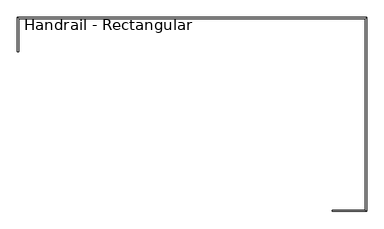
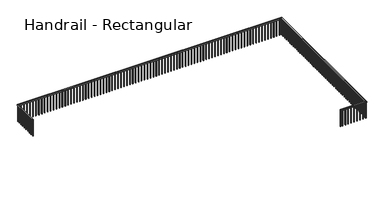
"""IFC4 building model written with IfcOpenShell, lengths in millimetres: railing geometry, Handrail - Rectangular."""

from ifc_helpers import new_model, si_unit, frame, origin, place, context, project, spatial, polyline, outline, extrude, faceted_brep, source, transform, mapped, element, save


def handrail_rectangular_d296d626(model_context):
    return source(origin(), model_context, "Body", "SolidModel", [
        faceted_brep([(-11342.6589563, 10624.0316867, 10058.4), (-11393.4589563, 10624.0316867, 10058.4), (-11393.4589563, 10624.0316867, 10007.6), (-11342.6589563, 10624.0316867, 10007.6), (-11342.6589563, 11919.4316867, 10058.4), (-11393.4589563, 11970.2316867, 10058.4), (-11393.4589563, 11970.2316867, 10007.6), (-11342.6589563, 11919.4316867, 10007.6), (2271.7410437, 11919.4316867, 10058.4), (2322.5410437, 11970.2316867, 10058.4), (2322.5410437, 11970.2316867, 10007.6), (2271.7410437, 11919.4316867, 10007.6), (2271.7410437, 4401.0316867, 10058.4), (2322.5410437, 4350.2316867, 10058.4), (2322.5410437, 4350.2316867, 10007.6), (2271.7410437, 4401.0316867, 10007.6), (976.3410437, 4401.0316867, 10058.4), (976.3410437, 4401.0316867, 10007.6), (976.3410437, 4350.2316867, 10007.6), (976.3410437, 4350.2316867, 10058.4)], [[[0, 1, 2, 3]], [[1, 0, 4, 5]], [[2, 1, 5, 6]], [[3, 2, 6, 7]], [[0, 3, 7, 4]], [[5, 4, 8, 9]], [[6, 5, 9, 10]], [[7, 6, 10, 11]], [[4, 7, 11, 8]], [[9, 8, 12, 13]], [[10, 9, 13, 14]], [[11, 10, 14, 15]], [[8, 11, 15, 12]], [[16, 17, 18, 19]], [[13, 12, 16, 19]], [[14, 13, 19, 18]], [[15, 14, 18, 17]], [[12, 15, 17, 16]]]),
        extrude(outline(polyline([(1087.4660437, 4385.1566867), (1087.4660437, 4366.1066867), (1068.4160437, 4366.1066867), (1068.4160437, 4385.1566867), (1087.4660437, 4385.1566867)])), frame((0.0, 0.0, 9144.0), z_axis=(0.0, 0.0, 1.0), x_axis=(1.0, 0.0, 0.0)), (0.0, 0.0, 1.0), 863.6),
        extrude(outline(polyline([(1239.8660437, 4385.1566867), (1239.8660437, 4366.1066867), (1220.8160437, 4366.1066867), (1220.8160437, 4385.1566867), (1239.8660437, 4385.1566867)])), frame((0.0, 0.0, 9144.0), z_axis=(0.0, 0.0, 1.0), x_axis=(1.0, 0.0, 0.0)), (0.0, 0.0, 1.0), 863.6),
        extrude(outline(polyline([(1392.2660437, 4385.1566867), (1392.2660437, 4366.1066867), (1373.2160437, 4366.1066867), (1373.2160437, 4385.1566867), (1392.2660437, 4385.1566867)])), frame((0.0, 0.0, 9144.0), z_axis=(0.0, 0.0, 1.0), x_axis=(1.0, 0.0, 0.0)), (0.0, 0.0, 1.0), 863.6),
        extrude(outline(polyline([(1544.6660437, 4385.1566867), (1544.6660437, 4366.1066867), (1525.6160437, 4366.1066867), (1525.6160437, 4385.1566867), (1544.6660437, 4385.1566867)])), frame((0.0, 0.0, 9144.0), z_axis=(0.0, 0.0, 1.0), x_axis=(1.0, 0.0, 0.0)), (0.0, 0.0, 1.0), 863.6),
        extrude(outline(polyline([(1697.0660437, 4385.1566867), (1697.0660437, 4366.1066867), (1678.0160437, 4366.1066867), (1678.0160437, 4385.1566867), (1697.0660437, 4385.1566867)])), frame((0.0, 0.0, 9144.0), z_axis=(0.0, 0.0, 1.0), x_axis=(1.0, 0.0, 0.0)), (0.0, 0.0, 1.0), 863.6),
        extrude(outline(polyline([(1849.4660437, 4385.1566867), (1849.4660437, 4366.1066867), (1830.4160437, 4366.1066867), (1830.4160437, 4385.1566867), (1849.4660437, 4385.1566867)])), frame((0.0, 0.0, 9144.0), z_axis=(0.0, 0.0, 1.0), x_axis=(1.0, 0.0, 0.0)), (0.0, 0.0, 1.0), 863.6),
        extrude(outline(polyline([(2001.8660437, 4385.1566867), (2001.8660437, 4366.1066867), (1982.8160437, 4366.1066867), (1982.8160437, 4385.1566867), (2001.8660437, 4385.1566867)])), frame((0.0, 0.0, 9144.0), z_axis=(0.0, 0.0, 1.0), x_axis=(1.0, 0.0, 0.0)), (0.0, 0.0, 1.0), 863.6),
        extrude(outline(polyline([(2154.2660437, 4385.1566867), (2154.2660437, 4366.1066867), (2135.2160437, 4366.1066867), (2135.2160437, 4385.1566867), (2154.2660437, 4385.1566867)])), frame((0.0, 0.0, 9144.0), z_axis=(0.0, 0.0, 1.0), x_axis=(1.0, 0.0, 0.0)), (0.0, 0.0, 1.0), 863.6),
        extrude(outline(polyline([(2287.6160437, 4486.7566867), (2306.6660437, 4486.7566867), (2306.6660437, 4467.7066867), (2287.6160437, 4467.7066867), (2287.6160437, 4486.7566867)])), frame((0.0, 0.0, 9144.0), z_axis=(0.0, 0.0, 1.0), x_axis=(1.0, 0.0, 0.0)), (0.0, 0.0, 1.0), 863.6),
        extrude(outline(polyline([(2287.6160437, 4639.1566867), (2306.6660437, 4639.1566867), (2306.6660437, 4620.1066867), (2287.6160437, 4620.1066867), (2287.6160437, 4639.1566867)])), frame((0.0, 0.0, 9144.0), z_axis=(0.0, 0.0, 1.0), x_axis=(1.0, 0.0, 0.0)), (0.0, 0.0, 1.0), 863.6),
        extrude(outline(polyline([(2287.6160437, 4791.5566867), (2306.6660437, 4791.5566867), (2306.6660437, 4772.5066867), (2287.6160437, 4772.5066867), (2287.6160437, 4791.5566867)])), frame((0.0, 0.0, 9144.0), z_axis=(0.0, 0.0, 1.0), x_axis=(1.0, 0.0, 0.0)), (0.0, 0.0, 1.0), 863.6),
        extrude(outline(polyline([(2287.6160437, 4943.9566867), (2306.6660437, 4943.9566867), (2306.6660437, 4924.9066867), (2287.6160437, 4924.9066867), (2287.6160437, 4943.9566867)])), frame((0.0, 0.0, 9144.0), z_axis=(0.0, 0.0, 1.0), x_axis=(1.0, 0.0, 0.0)), (0.0, 0.0, 1.0), 863.6),
        extrude(outline(polyline([(2287.6160437, 5096.3566867), (2306.6660437, 5096.3566867), (2306.6660437, 5077.3066867), (2287.6160437, 5077.3066867), (2287.6160437, 5096.3566867)])), frame((0.0, 0.0, 9144.0), z_axis=(0.0, 0.0, 1.0), x_axis=(1.0, 0.0, 0.0)), (0.0, 0.0, 1.0), 863.6),
        extrude(outline(polyline([(2287.6160437, 5248.7566867), (2306.6660437, 5248.7566867), (2306.6660437, 5229.7066867), (2287.6160437, 5229.7066867), (2287.6160437, 5248.7566867)])), frame((0.0, 0.0, 9144.0), z_axis=(0.0, 0.0, 1.0), x_axis=(1.0, 0.0, 0.0)), (0.0, 0.0, 1.0), 863.6),
        extrude(outline(polyline([(2287.6160437, 5401.1566867), (2306.6660437, 5401.1566867), (2306.6660437, 5382.1066867), (2287.6160437, 5382.1066867), (2287.6160437, 5401.1566867)])), frame((0.0, 0.0, 9144.0), z_axis=(0.0, 0.0, 1.0), x_axis=(1.0, 0.0, 0.0)), (0.0, 0.0, 1.0), 863.6),
        extrude(outline(polyline([(2287.6160437, 5553.5566867), (2306.6660437, 5553.5566867), (2306.6660437, 5534.5066867), (2287.6160437, 5534.5066867), (2287.6160437, 5553.5566867)])), frame((0.0, 0.0, 9144.0), z_axis=(0.0, 0.0, 1.0), x_axis=(1.0, 0.0, 0.0)), (0.0, 0.0, 1.0), 863.6),
        extrude(outline(polyline([(2287.6160437, 5705.9566867), (2306.6660437, 5705.9566867), (2306.6660437, 5686.9066867), (2287.6160437, 5686.9066867), (2287.6160437, 5705.9566867)])), frame((0.0, 0.0, 9144.0), z_axis=(0.0, 0.0, 1.0), x_axis=(1.0, 0.0, 0.0)), (0.0, 0.0, 1.0), 863.6),
        extrude(outline(polyline([(2287.6160437, 5858.3566867), (2306.6660437, 5858.3566867), (2306.6660437, 5839.3066867), (2287.6160437, 5839.3066867), (2287.6160437, 5858.3566867)])), frame((0.0, 0.0, 9144.0), z_axis=(0.0, 0.0, 1.0), x_axis=(1.0, 0.0, 0.0)), (0.0, 0.0, 1.0), 863.6),
        extrude(outline(polyline([(2287.6160437, 6010.7566867), (2306.6660437, 6010.7566867), (2306.6660437, 5991.7066867), (2287.6160437, 5991.7066867), (2287.6160437, 6010.7566867)])), frame((0.0, 0.0, 9144.0), z_axis=(0.0, 0.0, 1.0), x_axis=(1.0, 0.0, 0.0)), (0.0, 0.0, 1.0), 863.6),
        extrude(outline(polyline([(2287.6160437, 6163.1566867), (2306.6660437, 6163.1566867), (2306.6660437, 6144.1066867), (2287.6160437, 6144.1066867), (2287.6160437, 6163.1566867)])), frame((0.0, 0.0, 9144.0), z_axis=(0.0, 0.0, 1.0), x_axis=(1.0, 0.0, 0.0)), (0.0, 0.0, 1.0), 863.6),
        extrude(outline(polyline([(2287.6160437, 6315.5566867), (2306.6660437, 6315.5566867), (2306.6660437, 6296.5066867), (2287.6160437, 6296.5066867), (2287.6160437, 6315.5566867)])), frame((0.0, 0.0, 9144.0), z_axis=(0.0, 0.0, 1.0), x_axis=(1.0, 0.0, 0.0)), (0.0, 0.0, 1.0), 863.6),
        extrude(outline(polyline([(2287.6160437, 6467.9566867), (2306.6660437, 6467.9566867), (2306.6660437, 6448.9066867), (2287.6160437, 6448.9066867), (2287.6160437, 6467.9566867)])), frame((0.0, 0.0, 9144.0), z_axis=(0.0, 0.0, 1.0), x_axis=(1.0, 0.0, 0.0)), (0.0, 0.0, 1.0), 863.6),
        extrude(outline(polyline([(2287.6160437, 6620.3566867), (2306.6660437, 6620.3566867), (2306.6660437, 6601.3066867), (2287.6160437, 6601.3066867), (2287.6160437, 6620.3566867)])), frame((0.0, 0.0, 9144.0), z_axis=(0.0, 0.0, 1.0), x_axis=(1.0, 0.0, 0.0)), (0.0, 0.0, 1.0), 863.6),
        extrude(outline(polyline([(2287.6160437, 6772.7566867), (2306.6660437, 6772.7566867), (2306.6660437, 6753.7066867), (2287.6160437, 6753.7066867), (2287.6160437, 6772.7566867)])), frame((0.0, 0.0, 9144.0), z_axis=(0.0, 0.0, 1.0), x_axis=(1.0, 0.0, 0.0)), (0.0, 0.0, 1.0), 863.6),
        extrude(outline(polyline([(2287.6160437, 6925.1566867), (2306.6660437, 6925.1566867), (2306.6660437, 6906.1066867), (2287.6160437, 6906.1066867), (2287.6160437, 6925.1566867)])), frame((0.0, 0.0, 9144.0), z_axis=(0.0, 0.0, 1.0), x_axis=(1.0, 0.0, 0.0)), (0.0, 0.0, 1.0), 863.6),
        extrude(outline(polyline([(2287.6160437, 7077.5566867), (2306.6660437, 7077.5566867), (2306.6660437, 7058.5066867), (2287.6160437, 7058.5066867), (2287.6160437, 7077.5566867)])), frame((0.0, 0.0, 9144.0), z_axis=(0.0, 0.0, 1.0), x_axis=(1.0, 0.0, 0.0)), (0.0, 0.0, 1.0), 863.6),
        extrude(outline(polyline([(2287.6160437, 7229.9566867), (2306.6660437, 7229.9566867), (2306.6660437, 7210.9066867), (2287.6160437, 7210.9066867), (2287.6160437, 7229.9566867)])), frame((0.0, 0.0, 9144.0), z_axis=(0.0, 0.0, 1.0), x_axis=(1.0, 0.0, 0.0)), (0.0, 0.0, 1.0), 863.6),
        extrude(outline(polyline([(2287.6160437, 7382.3566867), (2306.6660437, 7382.3566867), (2306.6660437, 7363.3066867), (2287.6160437, 7363.3066867), (2287.6160437, 7382.3566867)])), frame((0.0, 0.0, 9144.0), z_axis=(0.0, 0.0, 1.0), x_axis=(1.0, 0.0, 0.0)), (0.0, 0.0, 1.0), 863.6),
        extrude(outline(polyline([(2287.6160437, 7534.7566867), (2306.6660437, 7534.7566867), (2306.6660437, 7515.7066867), (2287.6160437, 7515.7066867), (2287.6160437, 7534.7566867)])), frame((0.0, 0.0, 9144.0), z_axis=(0.0, 0.0, 1.0), x_axis=(1.0, 0.0, 0.0)), (0.0, 0.0, 1.0), 863.6),
        extrude(outline(polyline([(2287.6160437, 7687.1566867), (2306.6660437, 7687.1566867), (2306.6660437, 7668.1066867), (2287.6160437, 7668.1066867), (2287.6160437, 7687.1566867)])), frame((0.0, 0.0, 9144.0), z_axis=(0.0, 0.0, 1.0), x_axis=(1.0, 0.0, 0.0)), (0.0, 0.0, 1.0), 863.6),
        extrude(outline(polyline([(2287.6160437, 7839.5566867), (2306.6660437, 7839.5566867), (2306.6660437, 7820.5066867), (2287.6160437, 7820.5066867), (2287.6160437, 7839.5566867)])), frame((0.0, 0.0, 9144.0), z_axis=(0.0, 0.0, 1.0), x_axis=(1.0, 0.0, 0.0)), (0.0, 0.0, 1.0), 863.6),
        extrude(outline(polyline([(2287.6160437, 7991.9566867), (2306.6660437, 7991.9566867), (2306.6660437, 7972.9066867), (2287.6160437, 7972.9066867), (2287.6160437, 7991.9566867)])), frame((0.0, 0.0, 9144.0), z_axis=(0.0, 0.0, 1.0), x_axis=(1.0, 0.0, 0.0)), (0.0, 0.0, 1.0), 863.6),
        extrude(outline(polyline([(2287.6160437, 8144.3566867), (2306.6660437, 8144.3566867), (2306.6660437, 8125.3066867), (2287.6160437, 8125.3066867), (2287.6160437, 8144.3566867)])), frame((0.0, 0.0, 9144.0), z_axis=(0.0, 0.0, 1.0), x_axis=(1.0, 0.0, 0.0)), (0.0, 0.0, 1.0), 863.6),
        extrude(outline(polyline([(2287.6160437, 8296.7566867), (2306.6660437, 8296.7566867), (2306.6660437, 8277.7066867), (2287.6160437, 8277.7066867), (2287.6160437, 8296.7566867)])), frame((0.0, 0.0, 9144.0), z_axis=(0.0, 0.0, 1.0), x_axis=(1.0, 0.0, 0.0)), (0.0, 0.0, 1.0), 863.6),
        extrude(outline(polyline([(2287.6160437, 8449.1566867), (2306.6660437, 8449.1566867), (2306.6660437, 8430.1066867), (2287.6160437, 8430.1066867), (2287.6160437, 8449.1566867)])), frame((0.0, 0.0, 9144.0), z_axis=(0.0, 0.0, 1.0), x_axis=(1.0, 0.0, 0.0)), (0.0, 0.0, 1.0), 863.6),
        extrude(outline(polyline([(2287.6160437, 8601.5566867), (2306.6660437, 8601.5566867), (2306.6660437, 8582.5066867), (2287.6160437, 8582.5066867), (2287.6160437, 8601.5566867)])), frame((0.0, 0.0, 9144.0), z_axis=(0.0, 0.0, 1.0), x_axis=(1.0, 0.0, 0.0)), (0.0, 0.0, 1.0), 863.6),
        extrude(outline(polyline([(2287.6160437, 8753.9566867), (2306.6660437, 8753.9566867), (2306.6660437, 8734.9066867), (2287.6160437, 8734.9066867), (2287.6160437, 8753.9566867)])), frame((0.0, 0.0, 9144.0), z_axis=(0.0, 0.0, 1.0), x_axis=(1.0, 0.0, 0.0)), (0.0, 0.0, 1.0), 863.6),
        extrude(outline(polyline([(2287.6160437, 8906.3566867), (2306.6660437, 8906.3566867), (2306.6660437, 8887.3066867), (2287.6160437, 8887.3066867), (2287.6160437, 8906.3566867)])), frame((0.0, 0.0, 9144.0), z_axis=(0.0, 0.0, 1.0), x_axis=(1.0, 0.0, 0.0)), (0.0, 0.0, 1.0), 863.6),
        extrude(outline(polyline([(2287.6160437, 9058.7566867), (2306.6660437, 9058.7566867), (2306.6660437, 9039.7066867), (2287.6160437, 9039.7066867), (2287.6160437, 9058.7566867)])), frame((0.0, 0.0, 9144.0), z_axis=(0.0, 0.0, 1.0), x_axis=(1.0, 0.0, 0.0)), (0.0, 0.0, 1.0), 863.6),
        extrude(outline(polyline([(2287.6160437, 9211.1566867), (2306.6660437, 9211.1566867), (2306.6660437, 9192.1066867), (2287.6160437, 9192.1066867), (2287.6160437, 9211.1566867)])), frame((0.0, 0.0, 9144.0), z_axis=(0.0, 0.0, 1.0), x_axis=(1.0, 0.0, 0.0)), (0.0, 0.0, 1.0), 863.6),
        extrude(outline(polyline([(2287.6160437, 9363.5566867), (2306.6660437, 9363.5566867), (2306.6660437, 9344.5066867), (2287.6160437, 9344.5066867), (2287.6160437, 9363.5566867)])), frame((0.0, 0.0, 9144.0), z_axis=(0.0, 0.0, 1.0), x_axis=(1.0, 0.0, 0.0)), (0.0, 0.0, 1.0), 863.6),
        extrude(outline(polyline([(2287.6160437, 9515.9566867), (2306.6660437, 9515.9566867), (2306.6660437, 9496.9066867), (2287.6160437, 9496.9066867), (2287.6160437, 9515.9566867)])), frame((0.0, 0.0, 9144.0), z_axis=(0.0, 0.0, 1.0), x_axis=(1.0, 0.0, 0.0)), (0.0, 0.0, 1.0), 863.6),
        extrude(outline(polyline([(2287.6160437, 9668.3566867), (2306.6660437, 9668.3566867), (2306.6660437, 9649.3066867), (2287.6160437, 9649.3066867), (2287.6160437, 9668.3566867)])), frame((0.0, 0.0, 9144.0), z_axis=(0.0, 0.0, 1.0), x_axis=(1.0, 0.0, 0.0)), (0.0, 0.0, 1.0), 863.6),
        extrude(outline(polyline([(2287.6160437, 9820.7566867), (2306.6660437, 9820.7566867), (2306.6660437, 9801.7066867), (2287.6160437, 9801.7066867), (2287.6160437, 9820.7566867)])), frame((0.0, 0.0, 9144.0), z_axis=(0.0, 0.0, 1.0), x_axis=(1.0, 0.0, 0.0)), (0.0, 0.0, 1.0), 863.6),
        extrude(outline(polyline([(2287.6160437, 9973.1566867), (2306.6660437, 9973.1566867), (2306.6660437, 9954.1066867), (2287.6160437, 9954.1066867), (2287.6160437, 9973.1566867)])), frame((0.0, 0.0, 9144.0), z_axis=(0.0, 0.0, 1.0), x_axis=(1.0, 0.0, 0.0)), (0.0, 0.0, 1.0), 863.6),
        extrude(outline(polyline([(2287.6160437, 10125.5566867), (2306.6660437, 10125.5566867), (2306.6660437, 10106.5066867), (2287.6160437, 10106.5066867), (2287.6160437, 10125.5566867)])), frame((0.0, 0.0, 9144.0), z_axis=(0.0, 0.0, 1.0), x_axis=(1.0, 0.0, 0.0)), (0.0, 0.0, 1.0), 863.6),
        extrude(outline(polyline([(2287.6160437, 10277.9566867), (2306.6660437, 10277.9566867), (2306.6660437, 10258.9066867), (2287.6160437, 10258.9066867), (2287.6160437, 10277.9566867)])), frame((0.0, 0.0, 9144.0), z_axis=(0.0, 0.0, 1.0), x_axis=(1.0, 0.0, 0.0)), (0.0, 0.0, 1.0), 863.6),
        extrude(outline(polyline([(2287.6160437, 10430.3566867), (2306.6660437, 10430.3566867), (2306.6660437, 10411.3066867), (2287.6160437, 10411.3066867), (2287.6160437, 10430.3566867)])), frame((0.0, 0.0, 9144.0), z_axis=(0.0, 0.0, 1.0), x_axis=(1.0, 0.0, 0.0)), (0.0, 0.0, 1.0), 863.6),
        extrude(outline(polyline([(2287.6160437, 10582.7566867), (2306.6660437, 10582.7566867), (2306.6660437, 10563.7066867), (2287.6160437, 10563.7066867), (2287.6160437, 10582.7566867)])), frame((0.0, 0.0, 9144.0), z_axis=(0.0, 0.0, 1.0), x_axis=(1.0, 0.0, 0.0)), (0.0, 0.0, 1.0), 863.6),
        extrude(outline(polyline([(2287.6160437, 10735.1566867), (2306.6660437, 10735.1566867), (2306.6660437, 10716.1066867), (2287.6160437, 10716.1066867), (2287.6160437, 10735.1566867)])), frame((0.0, 0.0, 9144.0), z_axis=(0.0, 0.0, 1.0), x_axis=(1.0, 0.0, 0.0)), (0.0, 0.0, 1.0), 863.6),
        extrude(outline(polyline([(2287.6160437, 10887.5566867), (2306.6660437, 10887.5566867), (2306.6660437, 10868.5066867), (2287.6160437, 10868.5066867), (2287.6160437, 10887.5566867)])), frame((0.0, 0.0, 9144.0), z_axis=(0.0, 0.0, 1.0), x_axis=(1.0, 0.0, 0.0)), (0.0, 0.0, 1.0), 863.6),
        extrude(outline(polyline([(2287.6160437, 11039.9566867), (2306.6660437, 11039.9566867), (2306.6660437, 11020.9066867), (2287.6160437, 11020.9066867), (2287.6160437, 11039.9566867)])), frame((0.0, 0.0, 9144.0), z_axis=(0.0, 0.0, 1.0), x_axis=(1.0, 0.0, 0.0)), (0.0, 0.0, 1.0), 863.6),
        extrude(outline(polyline([(2287.6160437, 11192.3566867), (2306.6660437, 11192.3566867), (2306.6660437, 11173.3066867), (2287.6160437, 11173.3066867), (2287.6160437, 11192.3566867)])), frame((0.0, 0.0, 9144.0), z_axis=(0.0, 0.0, 1.0), x_axis=(1.0, 0.0, 0.0)), (0.0, 0.0, 1.0), 863.6),
        extrude(outline(polyline([(2287.6160437, 11344.7566867), (2306.6660437, 11344.7566867), (2306.6660437, 11325.7066867), (2287.6160437, 11325.7066867), (2287.6160437, 11344.7566867)])), frame((0.0, 0.0, 9144.0), z_axis=(0.0, 0.0, 1.0), x_axis=(1.0, 0.0, 0.0)), (0.0, 0.0, 1.0), 863.6),
        extrude(outline(polyline([(2287.6160437, 11497.1566867), (2306.6660437, 11497.1566867), (2306.6660437, 11478.1066867), (2287.6160437, 11478.1066867), (2287.6160437, 11497.1566867)])), frame((0.0, 0.0, 9144.0), z_axis=(0.0, 0.0, 1.0), x_axis=(1.0, 0.0, 0.0)), (0.0, 0.0, 1.0), 863.6),
        extrude(outline(polyline([(2287.6160437, 11649.5566867), (2306.6660437, 11649.5566867), (2306.6660437, 11630.5066867), (2287.6160437, 11630.5066867), (2287.6160437, 11649.5566867)])), frame((0.0, 0.0, 9144.0), z_axis=(0.0, 0.0, 1.0), x_axis=(1.0, 0.0, 0.0)), (0.0, 0.0, 1.0), 863.6),
        extrude(outline(polyline([(2287.6160437, 11801.9566867), (2306.6660437, 11801.9566867), (2306.6660437, 11782.9066867), (2287.6160437, 11782.9066867), (2287.6160437, 11801.9566867)])), frame((0.0, 0.0, 9144.0), z_axis=(0.0, 0.0, 1.0), x_axis=(1.0, 0.0, 0.0)), (0.0, 0.0, 1.0), 863.6),
        extrude(outline(polyline([(2186.0160437, 11935.3066867), (2186.0160437, 11954.3566867), (2205.0660437, 11954.3566867), (2205.0660437, 11935.3066867), (2186.0160437, 11935.3066867)])), frame((0.0, 0.0, 9144.0), z_axis=(0.0, 0.0, 1.0), x_axis=(1.0, 0.0, 0.0)), (0.0, 0.0, 1.0), 863.6),
        extrude(outline(polyline([(2033.6160437, 11935.3066867), (2033.6160437, 11954.3566867), (2052.6660437, 11954.3566867), (2052.6660437, 11935.3066867), (2033.6160437, 11935.3066867)])), frame((0.0, 0.0, 9144.0), z_axis=(0.0, 0.0, 1.0), x_axis=(1.0, 0.0, 0.0)), (0.0, 0.0, 1.0), 863.6),
        extrude(outline(polyline([(1881.2160437, 11935.3066867), (1881.2160437, 11954.3566867), (1900.2660437, 11954.3566867), (1900.2660437, 11935.3066867), (1881.2160437, 11935.3066867)])), frame((0.0, 0.0, 9144.0), z_axis=(0.0, 0.0, 1.0), x_axis=(1.0, 0.0, 0.0)), (0.0, 0.0, 1.0), 863.6),
        extrude(outline(polyline([(1728.8160437, 11935.3066867), (1728.8160437, 11954.3566867), (1747.8660437, 11954.3566867), (1747.8660437, 11935.3066867), (1728.8160437, 11935.3066867)])), frame((0.0, 0.0, 9144.0), z_axis=(0.0, 0.0, 1.0), x_axis=(1.0, 0.0, 0.0)), (0.0, 0.0, 1.0), 863.6),
        extrude(outline(polyline([(1576.4160437, 11935.3066867), (1576.4160437, 11954.3566867), (1595.4660437, 11954.3566867), (1595.4660437, 11935.3066867), (1576.4160437, 11935.3066867)])), frame((0.0, 0.0, 9144.0), z_axis=(0.0, 0.0, 1.0), x_axis=(1.0, 0.0, 0.0)), (0.0, 0.0, 1.0), 863.6),
        extrude(outline(polyline([(1424.0160437, 11935.3066867), (1424.0160437, 11954.3566867), (1443.0660437, 11954.3566867), (1443.0660437, 11935.3066867), (1424.0160437, 11935.3066867)])), frame((0.0, 0.0, 9144.0), z_axis=(0.0, 0.0, 1.0), x_axis=(1.0, 0.0, 0.0)), (0.0, 0.0, 1.0), 863.6),
        extrude(outline(polyline([(1271.6160437, 11935.3066867), (1271.6160437, 11954.3566867), (1290.6660437, 11954.3566867), (1290.6660437, 11935.3066867), (1271.6160437, 11935.3066867)])), frame((0.0, 0.0, 9144.0), z_axis=(0.0, 0.0, 1.0), x_axis=(1.0, 0.0, 0.0)), (0.0, 0.0, 1.0), 863.6),
        extrude(outline(polyline([(1119.2160437, 11935.3066867), (1119.2160437, 11954.3566867), (1138.2660437, 11954.3566867), (1138.2660437, 11935.3066867), (1119.2160437, 11935.3066867)])), frame((0.0, 0.0, 9144.0), z_axis=(0.0, 0.0, 1.0), x_axis=(1.0, 0.0, 0.0)), (0.0, 0.0, 1.0), 863.6),
        extrude(outline(polyline([(966.8160437, 11935.3066867), (966.8160437, 11954.3566867), (985.8660437, 11954.3566867), (985.8660437, 11935.3066867), (966.8160437, 11935.3066867)])), frame((0.0, 0.0, 9144.0), z_axis=(0.0, 0.0, 1.0), x_axis=(1.0, 0.0, 0.0)), (0.0, 0.0, 1.0), 863.6),
        extrude(outline(polyline([(814.4160437, 11935.3066867), (814.4160437, 11954.3566867), (833.4660437, 11954.3566867), (833.4660437, 11935.3066867), (814.4160437, 11935.3066867)])), frame((0.0, 0.0, 9144.0), z_axis=(0.0, 0.0, 1.0), x_axis=(1.0, 0.0, 0.0)), (0.0, 0.0, 1.0), 863.6),
        extrude(outline(polyline([(662.0160437, 11935.3066867), (662.0160437, 11954.3566867), (681.0660437, 11954.3566867), (681.0660437, 11935.3066867), (662.0160437, 11935.3066867)])), frame((0.0, 0.0, 9144.0), z_axis=(0.0, 0.0, 1.0), x_axis=(1.0, 0.0, 0.0)), (0.0, 0.0, 1.0), 863.6),
        extrude(outline(polyline([(509.6160437, 11935.3066867), (509.6160437, 11954.3566867), (528.6660437, 11954.3566867), (528.6660437, 11935.3066867), (509.6160437, 11935.3066867)])), frame((0.0, 0.0, 9144.0), z_axis=(0.0, 0.0, 1.0), x_axis=(1.0, 0.0, 0.0)), (0.0, 0.0, 1.0), 863.6),
        extrude(outline(polyline([(357.2160437, 11935.3066867), (357.2160437, 11954.3566867), (376.2660437, 11954.3566867), (376.2660437, 11935.3066867), (357.2160437, 11935.3066867)])), frame((0.0, 0.0, 9144.0), z_axis=(0.0, 0.0, 1.0), x_axis=(1.0, 0.0, 0.0)), (0.0, 0.0, 1.0), 863.6),
        extrude(outline(polyline([(204.8160437, 11935.3066867), (204.8160437, 11954.3566867), (223.8660437, 11954.3566867), (223.8660437, 11935.3066867), (204.8160437, 11935.3066867)])), frame((0.0, 0.0, 9144.0), z_axis=(0.0, 0.0, 1.0), x_axis=(1.0, 0.0, 0.0)), (0.0, 0.0, 1.0), 863.6),
        extrude(outline(polyline([(52.4160437, 11935.3066867), (52.4160437, 11954.3566867), (71.4660437, 11954.3566867), (71.4660437, 11935.3066867), (52.4160437, 11935.3066867)])), frame((0.0, 0.0, 9144.0), z_axis=(0.0, 0.0, 1.0), x_axis=(1.0, 0.0, 0.0)), (0.0, 0.0, 1.0), 863.6),
        extrude(outline(polyline([(-99.9839563, 11935.3066867), (-99.9839563, 11954.3566867), (-80.9339563, 11954.3566867), (-80.9339563, 11935.3066867), (-99.9839563, 11935.3066867)])), frame((0.0, 0.0, 9144.0), z_axis=(0.0, 0.0, 1.0), x_axis=(1.0, 0.0, 0.0)), (0.0, 0.0, 1.0), 863.6),
        extrude(outline(polyline([(-252.3839563, 11935.3066867), (-252.3839563, 11954.3566867), (-233.3339563, 11954.3566867), (-233.3339563, 11935.3066867), (-252.3839563, 11935.3066867)])), frame((0.0, 0.0, 9144.0), z_axis=(0.0, 0.0, 1.0), x_axis=(1.0, 0.0, 0.0)), (0.0, 0.0, 1.0), 863.6),
        extrude(outline(polyline([(-404.7839563, 11935.3066867), (-404.7839563, 11954.3566867), (-385.7339563, 11954.3566867), (-385.7339563, 11935.3066867), (-404.7839563, 11935.3066867)])), frame((0.0, 0.0, 9144.0), z_axis=(0.0, 0.0, 1.0), x_axis=(1.0, 0.0, 0.0)), (0.0, 0.0, 1.0), 863.6),
        extrude(outline(polyline([(-557.1839563, 11935.3066867), (-557.1839563, 11954.3566867), (-538.1339563, 11954.3566867), (-538.1339563, 11935.3066867), (-557.1839563, 11935.3066867)])), frame((0.0, 0.0, 9144.0), z_axis=(0.0, 0.0, 1.0), x_axis=(1.0, 0.0, 0.0)), (0.0, 0.0, 1.0), 863.6),
        extrude(outline(polyline([(-709.5839563, 11935.3066867), (-709.5839563, 11954.3566867), (-690.5339563, 11954.3566867), (-690.5339563, 11935.3066867), (-709.5839563, 11935.3066867)])), frame((0.0, 0.0, 9144.0), z_axis=(0.0, 0.0, 1.0), x_axis=(1.0, 0.0, 0.0)), (0.0, 0.0, 1.0), 863.6),
        extrude(outline(polyline([(-861.9839563, 11935.3066867), (-861.9839563, 11954.3566867), (-842.9339563, 11954.3566867), (-842.9339563, 11935.3066867), (-861.9839563, 11935.3066867)])), frame((0.0, 0.0, 9144.0), z_axis=(0.0, 0.0, 1.0), x_axis=(1.0, 0.0, 0.0)), (0.0, 0.0, 1.0), 863.6),
        extrude(outline(polyline([(-1014.3839563, 11935.3066867), (-1014.3839563, 11954.3566867), (-995.3339563, 11954.3566867), (-995.3339563, 11935.3066867), (-1014.3839563, 11935.3066867)])), frame((0.0, 0.0, 9144.0), z_axis=(0.0, 0.0, 1.0), x_axis=(1.0, 0.0, 0.0)), (0.0, 0.0, 1.0), 863.6),
        extrude(outline(polyline([(-1166.7839563, 11935.3066867), (-1166.7839563, 11954.3566867), (-1147.7339563, 11954.3566867), (-1147.7339563, 11935.3066867), (-1166.7839563, 11935.3066867)])), frame((0.0, 0.0, 9144.0), z_axis=(0.0, 0.0, 1.0), x_axis=(1.0, 0.0, 0.0)), (0.0, 0.0, 1.0), 863.6),
        extrude(outline(polyline([(-1319.1839563, 11935.3066867), (-1319.1839563, 11954.3566867), (-1300.1339563, 11954.3566867), (-1300.1339563, 11935.3066867), (-1319.1839563, 11935.3066867)])), frame((0.0, 0.0, 9144.0), z_axis=(0.0, 0.0, 1.0), x_axis=(1.0, 0.0, 0.0)), (0.0, 0.0, 1.0), 863.6),
        extrude(outline(polyline([(-1471.5839563, 11935.3066867), (-1471.5839563, 11954.3566867), (-1452.5339563, 11954.3566867), (-1452.5339563, 11935.3066867), (-1471.5839563, 11935.3066867)])), frame((0.0, 0.0, 9144.0), z_axis=(0.0, 0.0, 1.0), x_axis=(1.0, 0.0, 0.0)), (0.0, 0.0, 1.0), 863.6),
        extrude(outline(polyline([(-1623.9839563, 11935.3066867), (-1623.9839563, 11954.3566867), (-1604.9339563, 11954.3566867), (-1604.9339563, 11935.3066867), (-1623.9839563, 11935.3066867)])), frame((0.0, 0.0, 9144.0), z_axis=(0.0, 0.0, 1.0), x_axis=(1.0, 0.0, 0.0)), (0.0, 0.0, 1.0), 863.6),
        extrude(outline(polyline([(-1776.3839563, 11935.3066867), (-1776.3839563, 11954.3566867), (-1757.3339563, 11954.3566867), (-1757.3339563, 11935.3066867), (-1776.3839563, 11935.3066867)])), frame((0.0, 0.0, 9144.0), z_axis=(0.0, 0.0, 1.0), x_axis=(1.0, 0.0, 0.0)), (0.0, 0.0, 1.0), 863.6),
        extrude(outline(polyline([(-1928.7839563, 11935.3066867), (-1928.7839563, 11954.3566867), (-1909.7339563, 11954.3566867), (-1909.7339563, 11935.3066867), (-1928.7839563, 11935.3066867)])), frame((0.0, 0.0, 9144.0), z_axis=(0.0, 0.0, 1.0), x_axis=(1.0, 0.0, 0.0)), (0.0, 0.0, 1.0), 863.6),
        extrude(outline(polyline([(-2081.1839563, 11935.3066867), (-2081.1839563, 11954.3566867), (-2062.1339563, 11954.3566867), (-2062.1339563, 11935.3066867), (-2081.1839563, 11935.3066867)])), frame((0.0, 0.0, 9144.0), z_axis=(0.0, 0.0, 1.0), x_axis=(1.0, 0.0, 0.0)), (0.0, 0.0, 1.0), 863.6),
        extrude(outline(polyline([(-2233.5839563, 11935.3066867), (-2233.5839563, 11954.3566867), (-2214.5339563, 11954.3566867), (-2214.5339563, 11935.3066867), (-2233.5839563, 11935.3066867)])), frame((0.0, 0.0, 9144.0), z_axis=(0.0, 0.0, 1.0), x_axis=(1.0, 0.0, 0.0)), (0.0, 0.0, 1.0), 863.6),
        extrude(outline(polyline([(-2385.9839563, 11935.3066867), (-2385.9839563, 11954.3566867), (-2366.9339563, 11954.3566867), (-2366.9339563, 11935.3066867), (-2385.9839563, 11935.3066867)])), frame((0.0, 0.0, 9144.0), z_axis=(0.0, 0.0, 1.0), x_axis=(1.0, 0.0, 0.0)), (0.0, 0.0, 1.0), 863.6),
        extrude(outline(polyline([(-2538.3839563, 11935.3066867), (-2538.3839563, 11954.3566867), (-2519.3339563, 11954.3566867), (-2519.3339563, 11935.3066867), (-2538.3839563, 11935.3066867)])), frame((0.0, 0.0, 9144.0), z_axis=(0.0, 0.0, 1.0), x_axis=(1.0, 0.0, 0.0)), (0.0, 0.0, 1.0), 863.6),
        extrude(outline(polyline([(-2690.7839563, 11935.3066867), (-2690.7839563, 11954.3566867), (-2671.7339563, 11954.3566867), (-2671.7339563, 11935.3066867), (-2690.7839563, 11935.3066867)])), frame((0.0, 0.0, 9144.0), z_axis=(0.0, 0.0, 1.0), x_axis=(1.0, 0.0, 0.0)), (0.0, 0.0, 1.0), 863.6),
        extrude(outline(polyline([(-2843.1839563, 11935.3066867), (-2843.1839563, 11954.3566867), (-2824.1339563, 11954.3566867), (-2824.1339563, 11935.3066867), (-2843.1839563, 11935.3066867)])), frame((0.0, 0.0, 9144.0), z_axis=(0.0, 0.0, 1.0), x_axis=(1.0, 0.0, 0.0)), (0.0, 0.0, 1.0), 863.6),
        extrude(outline(polyline([(-2995.5839563, 11935.3066867), (-2995.5839563, 11954.3566867), (-2976.5339563, 11954.3566867), (-2976.5339563, 11935.3066867), (-2995.5839563, 11935.3066867)])), frame((0.0, 0.0, 9144.0), z_axis=(0.0, 0.0, 1.0), x_axis=(1.0, 0.0, 0.0)), (0.0, 0.0, 1.0), 863.6),
        extrude(outline(polyline([(-3147.9839563, 11935.3066867), (-3147.9839563, 11954.3566867), (-3128.9339563, 11954.3566867), (-3128.9339563, 11935.3066867), (-3147.9839563, 11935.3066867)])), frame((0.0, 0.0, 9144.0), z_axis=(0.0, 0.0, 1.0), x_axis=(1.0, 0.0, 0.0)), (0.0, 0.0, 1.0), 863.6),
        extrude(outline(polyline([(-3300.3839563, 11935.3066867), (-3300.3839563, 11954.3566867), (-3281.3339563, 11954.3566867), (-3281.3339563, 11935.3066867), (-3300.3839563, 11935.3066867)])), frame((0.0, 0.0, 9144.0), z_axis=(0.0, 0.0, 1.0), x_axis=(1.0, 0.0, 0.0)), (0.0, 0.0, 1.0), 863.6),
        extrude(outline(polyline([(-3452.7839563, 11935.3066867), (-3452.7839563, 11954.3566867), (-3433.7339563, 11954.3566867), (-3433.7339563, 11935.3066867), (-3452.7839563, 11935.3066867)])), frame((0.0, 0.0, 9144.0), z_axis=(0.0, 0.0, 1.0), x_axis=(1.0, 0.0, 0.0)), (0.0, 0.0, 1.0), 863.6),
        extrude(outline(polyline([(-3605.1839563, 11935.3066867), (-3605.1839563, 11954.3566867), (-3586.1339563, 11954.3566867), (-3586.1339563, 11935.3066867), (-3605.1839563, 11935.3066867)])), frame((0.0, 0.0, 9144.0), z_axis=(0.0, 0.0, 1.0), x_axis=(1.0, 0.0, 0.0)), (0.0, 0.0, 1.0), 863.6),
        extrude(outline(polyline([(-3757.5839563, 11935.3066867), (-3757.5839563, 11954.3566867), (-3738.5339563, 11954.3566867), (-3738.5339563, 11935.3066867), (-3757.5839563, 11935.3066867)])), frame((0.0, 0.0, 9144.0), z_axis=(0.0, 0.0, 1.0), x_axis=(1.0, 0.0, 0.0)), (0.0, 0.0, 1.0), 863.6),
        extrude(outline(polyline([(-3909.9839563, 11935.3066867), (-3909.9839563, 11954.3566867), (-3890.9339563, 11954.3566867), (-3890.9339563, 11935.3066867), (-3909.9839563, 11935.3066867)])), frame((0.0, 0.0, 9144.0), z_axis=(0.0, 0.0, 1.0), x_axis=(1.0, 0.0, 0.0)), (0.0, 0.0, 1.0), 863.6),
        extrude(outline(polyline([(-4062.3839563, 11935.3066867), (-4062.3839563, 11954.3566867), (-4043.3339563, 11954.3566867), (-4043.3339563, 11935.3066867), (-4062.3839563, 11935.3066867)])), frame((0.0, 0.0, 9144.0), z_axis=(0.0, 0.0, 1.0), x_axis=(1.0, 0.0, 0.0)), (0.0, 0.0, 1.0), 863.6),
        extrude(outline(polyline([(-4214.7839563, 11935.3066867), (-4214.7839563, 11954.3566867), (-4195.7339563, 11954.3566867), (-4195.7339563, 11935.3066867), (-4214.7839563, 11935.3066867)])), frame((0.0, 0.0, 9144.0), z_axis=(0.0, 0.0, 1.0), x_axis=(1.0, 0.0, 0.0)), (0.0, 0.0, 1.0), 863.6),
        extrude(outline(polyline([(-4367.1839563, 11935.3066867), (-4367.1839563, 11954.3566867), (-4348.1339563, 11954.3566867), (-4348.1339563, 11935.3066867), (-4367.1839563, 11935.3066867)])), frame((0.0, 0.0, 9144.0), z_axis=(0.0, 0.0, 1.0), x_axis=(1.0, 0.0, 0.0)), (0.0, 0.0, 1.0), 863.6),
        extrude(outline(polyline([(-4519.5839563, 11935.3066867), (-4519.5839563, 11954.3566867), (-4500.5339563, 11954.3566867), (-4500.5339563, 11935.3066867), (-4519.5839563, 11935.3066867)])), frame((0.0, 0.0, 9144.0), z_axis=(0.0, 0.0, 1.0), x_axis=(1.0, 0.0, 0.0)), (0.0, 0.0, 1.0), 863.6),
        extrude(outline(polyline([(-4671.9839563, 11935.3066867), (-4671.9839563, 11954.3566867), (-4652.9339563, 11954.3566867), (-4652.9339563, 11935.3066867), (-4671.9839563, 11935.3066867)])), frame((0.0, 0.0, 9144.0), z_axis=(0.0, 0.0, 1.0), x_axis=(1.0, 0.0, 0.0)), (0.0, 0.0, 1.0), 863.6),
        extrude(outline(polyline([(-4824.3839563, 11935.3066867), (-4824.3839563, 11954.3566867), (-4805.3339563, 11954.3566867), (-4805.3339563, 11935.3066867), (-4824.3839563, 11935.3066867)])), frame((0.0, 0.0, 9144.0), z_axis=(0.0, 0.0, 1.0), x_axis=(1.0, 0.0, 0.0)), (0.0, 0.0, 1.0), 863.6),
        extrude(outline(polyline([(-4976.7839563, 11935.3066867), (-4976.7839563, 11954.3566867), (-4957.7339563, 11954.3566867), (-4957.7339563, 11935.3066867), (-4976.7839563, 11935.3066867)])), frame((0.0, 0.0, 9144.0), z_axis=(0.0, 0.0, 1.0), x_axis=(1.0, 0.0, 0.0)), (0.0, 0.0, 1.0), 863.6),
        extrude(outline(polyline([(-5129.1839563, 11935.3066867), (-5129.1839563, 11954.3566867), (-5110.1339563, 11954.3566867), (-5110.1339563, 11935.3066867), (-5129.1839563, 11935.3066867)])), frame((0.0, 0.0, 9144.0), z_axis=(0.0, 0.0, 1.0), x_axis=(1.0, 0.0, 0.0)), (0.0, 0.0, 1.0), 863.6),
        extrude(outline(polyline([(-5281.5839563, 11935.3066867), (-5281.5839563, 11954.3566867), (-5262.5339563, 11954.3566867), (-5262.5339563, 11935.3066867), (-5281.5839563, 11935.3066867)])), frame((0.0, 0.0, 9144.0), z_axis=(0.0, 0.0, 1.0), x_axis=(1.0, 0.0, 0.0)), (0.0, 0.0, 1.0), 863.6),
        extrude(outline(polyline([(-5433.9839563, 11935.3066867), (-5433.9839563, 11954.3566867), (-5414.9339563, 11954.3566867), (-5414.9339563, 11935.3066867), (-5433.9839563, 11935.3066867)])), frame((0.0, 0.0, 9144.0), z_axis=(0.0, 0.0, 1.0), x_axis=(1.0, 0.0, 0.0)), (0.0, 0.0, 1.0), 863.6),
        extrude(outline(polyline([(-5586.3839563, 11935.3066867), (-5586.3839563, 11954.3566867), (-5567.3339563, 11954.3566867), (-5567.3339563, 11935.3066867), (-5586.3839563, 11935.3066867)])), frame((0.0, 0.0, 9144.0), z_axis=(0.0, 0.0, 1.0), x_axis=(1.0, 0.0, 0.0)), (0.0, 0.0, 1.0), 863.6),
        extrude(outline(polyline([(-5738.7839563, 11935.3066867), (-5738.7839563, 11954.3566867), (-5719.7339563, 11954.3566867), (-5719.7339563, 11935.3066867), (-5738.7839563, 11935.3066867)])), frame((0.0, 0.0, 9144.0), z_axis=(0.0, 0.0, 1.0), x_axis=(1.0, 0.0, 0.0)), (0.0, 0.0, 1.0), 863.6),
        extrude(outline(polyline([(-5891.1839563, 11935.3066867), (-5891.1839563, 11954.3566867), (-5872.1339563, 11954.3566867), (-5872.1339563, 11935.3066867), (-5891.1839563, 11935.3066867)])), frame((0.0, 0.0, 9144.0), z_axis=(0.0, 0.0, 1.0), x_axis=(1.0, 0.0, 0.0)), (0.0, 0.0, 1.0), 863.6),
        extrude(outline(polyline([(-6043.5839563, 11935.3066867), (-6043.5839563, 11954.3566867), (-6024.5339563, 11954.3566867), (-6024.5339563, 11935.3066867), (-6043.5839563, 11935.3066867)])), frame((0.0, 0.0, 9144.0), z_axis=(0.0, 0.0, 1.0), x_axis=(1.0, 0.0, 0.0)), (0.0, 0.0, 1.0), 863.6),
        extrude(outline(polyline([(-6195.9839563, 11935.3066867), (-6195.9839563, 11954.3566867), (-6176.9339563, 11954.3566867), (-6176.9339563, 11935.3066867), (-6195.9839563, 11935.3066867)])), frame((0.0, 0.0, 9144.0), z_axis=(0.0, 0.0, 1.0), x_axis=(1.0, 0.0, 0.0)), (0.0, 0.0, 1.0), 863.6),
        extrude(outline(polyline([(-6348.3839563, 11935.3066867), (-6348.3839563, 11954.3566867), (-6329.3339563, 11954.3566867), (-6329.3339563, 11935.3066867), (-6348.3839563, 11935.3066867)])), frame((0.0, 0.0, 9144.0), z_axis=(0.0, 0.0, 1.0), x_axis=(1.0, 0.0, 0.0)), (0.0, 0.0, 1.0), 863.6),
        extrude(outline(polyline([(-6500.7839563, 11935.3066867), (-6500.7839563, 11954.3566867), (-6481.7339563, 11954.3566867), (-6481.7339563, 11935.3066867), (-6500.7839563, 11935.3066867)])), frame((0.0, 0.0, 9144.0), z_axis=(0.0, 0.0, 1.0), x_axis=(1.0, 0.0, 0.0)), (0.0, 0.0, 1.0), 863.6),
        extrude(outline(polyline([(-6653.1839563, 11935.3066867), (-6653.1839563, 11954.3566867), (-6634.1339563, 11954.3566867), (-6634.1339563, 11935.3066867), (-6653.1839563, 11935.3066867)])), frame((0.0, 0.0, 9144.0), z_axis=(0.0, 0.0, 1.0), x_axis=(1.0, 0.0, 0.0)), (0.0, 0.0, 1.0), 863.6),
        extrude(outline(polyline([(-6805.5839563, 11935.3066867), (-6805.5839563, 11954.3566867), (-6786.5339563, 11954.3566867), (-6786.5339563, 11935.3066867), (-6805.5839563, 11935.3066867)])), frame((0.0, 0.0, 9144.0), z_axis=(0.0, 0.0, 1.0), x_axis=(1.0, 0.0, 0.0)), (0.0, 0.0, 1.0), 863.6),
        extrude(outline(polyline([(-6957.9839563, 11935.3066867), (-6957.9839563, 11954.3566867), (-6938.9339563, 11954.3566867), (-6938.9339563, 11935.3066867), (-6957.9839563, 11935.3066867)])), frame((0.0, 0.0, 9144.0), z_axis=(0.0, 0.0, 1.0), x_axis=(1.0, 0.0, 0.0)), (0.0, 0.0, 1.0), 863.6),
        extrude(outline(polyline([(-7110.3839563, 11935.3066867), (-7110.3839563, 11954.3566867), (-7091.3339563, 11954.3566867), (-7091.3339563, 11935.3066867), (-7110.3839563, 11935.3066867)])), frame((0.0, 0.0, 9144.0), z_axis=(0.0, 0.0, 1.0), x_axis=(1.0, 0.0, 0.0)), (0.0, 0.0, 1.0), 863.6),
        extrude(outline(polyline([(-7262.7839563, 11935.3066867), (-7262.7839563, 11954.3566867), (-7243.7339563, 11954.3566867), (-7243.7339563, 11935.3066867), (-7262.7839563, 11935.3066867)])), frame((0.0, 0.0, 9144.0), z_axis=(0.0, 0.0, 1.0), x_axis=(1.0, 0.0, 0.0)), (0.0, 0.0, 1.0), 863.6),
        extrude(outline(polyline([(-7415.1839563, 11935.3066867), (-7415.1839563, 11954.3566867), (-7396.1339563, 11954.3566867), (-7396.1339563, 11935.3066867), (-7415.1839563, 11935.3066867)])), frame((0.0, 0.0, 9144.0), z_axis=(0.0, 0.0, 1.0), x_axis=(1.0, 0.0, 0.0)), (0.0, 0.0, 1.0), 863.6),
        extrude(outline(polyline([(-7567.5839563, 11935.3066867), (-7567.5839563, 11954.3566867), (-7548.5339563, 11954.3566867), (-7548.5339563, 11935.3066867), (-7567.5839563, 11935.3066867)])), frame((0.0, 0.0, 9144.0), z_axis=(0.0, 0.0, 1.0), x_axis=(1.0, 0.0, 0.0)), (0.0, 0.0, 1.0), 863.6),
        extrude(outline(polyline([(-7719.9839563, 11935.3066867), (-7719.9839563, 11954.3566867), (-7700.9339563, 11954.3566867), (-7700.9339563, 11935.3066867), (-7719.9839563, 11935.3066867)])), frame((0.0, 0.0, 9144.0), z_axis=(0.0, 0.0, 1.0), x_axis=(1.0, 0.0, 0.0)), (0.0, 0.0, 1.0), 863.6),
        extrude(outline(polyline([(-7872.3839563, 11935.3066867), (-7872.3839563, 11954.3566867), (-7853.3339563, 11954.3566867), (-7853.3339563, 11935.3066867), (-7872.3839563, 11935.3066867)])), frame((0.0, 0.0, 9144.0), z_axis=(0.0, 0.0, 1.0), x_axis=(1.0, 0.0, 0.0)), (0.0, 0.0, 1.0), 863.6),
        extrude(outline(polyline([(-8024.7839563, 11935.3066867), (-8024.7839563, 11954.3566867), (-8005.7339563, 11954.3566867), (-8005.7339563, 11935.3066867), (-8024.7839563, 11935.3066867)])), frame((0.0, 0.0, 9144.0), z_axis=(0.0, 0.0, 1.0), x_axis=(1.0, 0.0, 0.0)), (0.0, 0.0, 1.0), 863.6),
        extrude(outline(polyline([(-8177.1839563, 11935.3066867), (-8177.1839563, 11954.3566867), (-8158.1339563, 11954.3566867), (-8158.1339563, 11935.3066867), (-8177.1839563, 11935.3066867)])), frame((0.0, 0.0, 9144.0), z_axis=(0.0, 0.0, 1.0), x_axis=(1.0, 0.0, 0.0)), (0.0, 0.0, 1.0), 863.6),
        extrude(outline(polyline([(-8329.5839563, 11935.3066867), (-8329.5839563, 11954.3566867), (-8310.5339563, 11954.3566867), (-8310.5339563, 11935.3066867), (-8329.5839563, 11935.3066867)])), frame((0.0, 0.0, 9144.0), z_axis=(0.0, 0.0, 1.0), x_axis=(1.0, 0.0, 0.0)), (0.0, 0.0, 1.0), 863.6),
        extrude(outline(polyline([(-8481.9839563, 11935.3066867), (-8481.9839563, 11954.3566867), (-8462.9339563, 11954.3566867), (-8462.9339563, 11935.3066867), (-8481.9839563, 11935.3066867)])), frame((0.0, 0.0, 9144.0), z_axis=(0.0, 0.0, 1.0), x_axis=(1.0, 0.0, 0.0)), (0.0, 0.0, 1.0), 863.6),
        extrude(outline(polyline([(-8634.3839563, 11935.3066867), (-8634.3839563, 11954.3566867), (-8615.3339563, 11954.3566867), (-8615.3339563, 11935.3066867), (-8634.3839563, 11935.3066867)])), frame((0.0, 0.0, 9144.0), z_axis=(0.0, 0.0, 1.0), x_axis=(1.0, 0.0, 0.0)), (0.0, 0.0, 1.0), 863.6),
        extrude(outline(polyline([(-8786.7839563, 11935.3066867), (-8786.7839563, 11954.3566867), (-8767.7339563, 11954.3566867), (-8767.7339563, 11935.3066867), (-8786.7839563, 11935.3066867)])), frame((0.0, 0.0, 9144.0), z_axis=(0.0, 0.0, 1.0), x_axis=(1.0, 0.0, 0.0)), (0.0, 0.0, 1.0), 863.6),
        extrude(outline(polyline([(-8939.1839563, 11935.3066867), (-8939.1839563, 11954.3566867), (-8920.1339563, 11954.3566867), (-8920.1339563, 11935.3066867), (-8939.1839563, 11935.3066867)])), frame((0.0, 0.0, 9144.0), z_axis=(0.0, 0.0, 1.0), x_axis=(1.0, 0.0, 0.0)), (0.0, 0.0, 1.0), 863.6),
        extrude(outline(polyline([(-9091.5839563, 11935.3066867), (-9091.5839563, 11954.3566867), (-9072.5339563, 11954.3566867), (-9072.5339563, 11935.3066867), (-9091.5839563, 11935.3066867)])), frame((0.0, 0.0, 9144.0), z_axis=(0.0, 0.0, 1.0), x_axis=(1.0, 0.0, 0.0)), (0.0, 0.0, 1.0), 863.6),
        extrude(outline(polyline([(-9243.9839563, 11935.3066867), (-9243.9839563, 11954.3566867), (-9224.9339563, 11954.3566867), (-9224.9339563, 11935.3066867), (-9243.9839563, 11935.3066867)])), frame((0.0, 0.0, 9144.0), z_axis=(0.0, 0.0, 1.0), x_axis=(1.0, 0.0, 0.0)), (0.0, 0.0, 1.0), 863.6),
        extrude(outline(polyline([(-9396.3839563, 11935.3066867), (-9396.3839563, 11954.3566867), (-9377.3339563, 11954.3566867), (-9377.3339563, 11935.3066867), (-9396.3839563, 11935.3066867)])), frame((0.0, 0.0, 9144.0), z_axis=(0.0, 0.0, 1.0), x_axis=(1.0, 0.0, 0.0)), (0.0, 0.0, 1.0), 863.6),
        extrude(outline(polyline([(-9548.7839563, 11935.3066867), (-9548.7839563, 11954.3566867), (-9529.7339563, 11954.3566867), (-9529.7339563, 11935.3066867), (-9548.7839563, 11935.3066867)])), frame((0.0, 0.0, 9144.0), z_axis=(0.0, 0.0, 1.0), x_axis=(1.0, 0.0, 0.0)), (0.0, 0.0, 1.0), 863.6),
        extrude(outline(polyline([(-9701.1839563, 11935.3066867), (-9701.1839563, 11954.3566867), (-9682.1339563, 11954.3566867), (-9682.1339563, 11935.3066867), (-9701.1839563, 11935.3066867)])), frame((0.0, 0.0, 9144.0), z_axis=(0.0, 0.0, 1.0), x_axis=(1.0, 0.0, 0.0)), (0.0, 0.0, 1.0), 863.6),
        extrude(outline(polyline([(-9853.5839563, 11935.3066867), (-9853.5839563, 11954.3566867), (-9834.5339563, 11954.3566867), (-9834.5339563, 11935.3066867), (-9853.5839563, 11935.3066867)])), frame((0.0, 0.0, 9144.0), z_axis=(0.0, 0.0, 1.0), x_axis=(1.0, 0.0, 0.0)), (0.0, 0.0, 1.0), 863.6),
        extrude(outline(polyline([(-10005.9839563, 11935.3066867), (-10005.9839563, 11954.3566867), (-9986.9339563, 11954.3566867), (-9986.9339563, 11935.3066867), (-10005.9839563, 11935.3066867)])), frame((0.0, 0.0, 9144.0), z_axis=(0.0, 0.0, 1.0), x_axis=(1.0, 0.0, 0.0)), (0.0, 0.0, 1.0), 863.6),
        extrude(outline(polyline([(-10158.3839563, 11935.3066867), (-10158.3839563, 11954.3566867), (-10139.3339563, 11954.3566867), (-10139.3339563, 11935.3066867), (-10158.3839563, 11935.3066867)])), frame((0.0, 0.0, 9144.0), z_axis=(0.0, 0.0, 1.0), x_axis=(1.0, 0.0, 0.0)), (0.0, 0.0, 1.0), 863.6),
        extrude(outline(polyline([(-10310.7839563, 11935.3066867), (-10310.7839563, 11954.3566867), (-10291.7339563, 11954.3566867), (-10291.7339563, 11935.3066867), (-10310.7839563, 11935.3066867)])), frame((0.0, 0.0, 9144.0), z_axis=(0.0, 0.0, 1.0), x_axis=(1.0, 0.0, 0.0)), (0.0, 0.0, 1.0), 863.6),
        extrude(outline(polyline([(-10463.1839563, 11935.3066867), (-10463.1839563, 11954.3566867), (-10444.1339563, 11954.3566867), (-10444.1339563, 11935.3066867), (-10463.1839563, 11935.3066867)])), frame((0.0, 0.0, 9144.0), z_axis=(0.0, 0.0, 1.0), x_axis=(1.0, 0.0, 0.0)), (0.0, 0.0, 1.0), 863.6),
        extrude(outline(polyline([(-10615.5839563, 11935.3066867), (-10615.5839563, 11954.3566867), (-10596.5339563, 11954.3566867), (-10596.5339563, 11935.3066867), (-10615.5839563, 11935.3066867)])), frame((0.0, 0.0, 9144.0), z_axis=(0.0, 0.0, 1.0), x_axis=(1.0, 0.0, 0.0)), (0.0, 0.0, 1.0), 863.6),
        extrude(outline(polyline([(-10767.9839563, 11935.3066867), (-10767.9839563, 11954.3566867), (-10748.9339563, 11954.3566867), (-10748.9339563, 11935.3066867), (-10767.9839563, 11935.3066867)])), frame((0.0, 0.0, 9144.0), z_axis=(0.0, 0.0, 1.0), x_axis=(1.0, 0.0, 0.0)), (0.0, 0.0, 1.0), 863.6),
        extrude(outline(polyline([(-10920.3839563, 11935.3066867), (-10920.3839563, 11954.3566867), (-10901.3339563, 11954.3566867), (-10901.3339563, 11935.3066867), (-10920.3839563, 11935.3066867)])), frame((0.0, 0.0, 9144.0), z_axis=(0.0, 0.0, 1.0), x_axis=(1.0, 0.0, 0.0)), (0.0, 0.0, 1.0), 863.6),
        extrude(outline(polyline([(-11072.7839563, 11935.3066867), (-11072.7839563, 11954.3566867), (-11053.7339563, 11954.3566867), (-11053.7339563, 11935.3066867), (-11072.7839563, 11935.3066867)])), frame((0.0, 0.0, 9144.0), z_axis=(0.0, 0.0, 1.0), x_axis=(1.0, 0.0, 0.0)), (0.0, 0.0, 1.0), 863.6),
        extrude(outline(polyline([(-11225.1839563, 11935.3066867), (-11225.1839563, 11954.3566867), (-11206.1339563, 11954.3566867), (-11206.1339563, 11935.3066867), (-11225.1839563, 11935.3066867)])), frame((0.0, 0.0, 9144.0), z_axis=(0.0, 0.0, 1.0), x_axis=(1.0, 0.0, 0.0)), (0.0, 0.0, 1.0), 863.6),
        extrude(outline(polyline([(-11358.5339563, 11833.7066867), (-11377.5839563, 11833.7066867), (-11377.5839563, 11852.7566867), (-11358.5339563, 11852.7566867), (-11358.5339563, 11833.7066867)])), frame((0.0, 0.0, 9144.0), z_axis=(0.0, 0.0, 1.0), x_axis=(1.0, 0.0, 0.0)), (0.0, 0.0, 1.0), 863.6),
        extrude(outline(polyline([(-11358.5339563, 11681.3066867), (-11377.5839563, 11681.3066867), (-11377.5839563, 11700.3566867), (-11358.5339563, 11700.3566867), (-11358.5339563, 11681.3066867)])), frame((0.0, 0.0, 9144.0), z_axis=(0.0, 0.0, 1.0), x_axis=(1.0, 0.0, 0.0)), (0.0, 0.0, 1.0), 863.6),
        extrude(outline(polyline([(-11358.5339563, 11528.9066867), (-11377.5839563, 11528.9066867), (-11377.5839563, 11547.9566867), (-11358.5339563, 11547.9566867), (-11358.5339563, 11528.9066867)])), frame((0.0, 0.0, 9144.0), z_axis=(0.0, 0.0, 1.0), x_axis=(1.0, 0.0, 0.0)), (0.0, 0.0, 1.0), 863.6),
        extrude(outline(polyline([(-11358.5339563, 11376.5066867), (-11377.5839563, 11376.5066867), (-11377.5839563, 11395.5566867), (-11358.5339563, 11395.5566867), (-11358.5339563, 11376.5066867)])), frame((0.0, 0.0, 9144.0), z_axis=(0.0, 0.0, 1.0), x_axis=(1.0, 0.0, 0.0)), (0.0, 0.0, 1.0), 863.6),
        extrude(outline(polyline([(-11358.5339563, 11224.1066867), (-11377.5839563, 11224.1066867), (-11377.5839563, 11243.1566867), (-11358.5339563, 11243.1566867), (-11358.5339563, 11224.1066867)])), frame((0.0, 0.0, 9144.0), z_axis=(0.0, 0.0, 1.0), x_axis=(1.0, 0.0, 0.0)), (0.0, 0.0, 1.0), 863.6),
        extrude(outline(polyline([(-11358.5339563, 11071.7066867), (-11377.5839563, 11071.7066867), (-11377.5839563, 11090.7566867), (-11358.5339563, 11090.7566867), (-11358.5339563, 11071.7066867)])), frame((0.0, 0.0, 9144.0), z_axis=(0.0, 0.0, 1.0), x_axis=(1.0, 0.0, 0.0)), (0.0, 0.0, 1.0), 863.6),
        extrude(outline(polyline([(-11358.5339563, 10919.3066867), (-11377.5839563, 10919.3066867), (-11377.5839563, 10938.3566867), (-11358.5339563, 10938.3566867), (-11358.5339563, 10919.3066867)])), frame((0.0, 0.0, 9144.0), z_axis=(0.0, 0.0, 1.0), x_axis=(1.0, 0.0, 0.0)), (0.0, 0.0, 1.0), 863.6),
        extrude(outline(polyline([(-11358.5339563, 10766.9066867), (-11377.5839563, 10766.9066867), (-11377.5839563, 10785.9566867), (-11358.5339563, 10785.9566867), (-11358.5339563, 10766.9066867)])), frame((0.0, 0.0, 9144.0), z_axis=(0.0, 0.0, 1.0), x_axis=(1.0, 0.0, 0.0)), (0.0, 0.0, 1.0), 863.6),
        extrude(outline(polyline([(2287.6160437, 4385.1566867), (2306.6660437, 4385.1566867), (2306.6660437, 4366.1066867), (2287.6160437, 4366.1066867), (2287.6160437, 4385.1566867)])), frame((0.0, 0.0, 9144.0), z_axis=(0.0, 0.0, 1.0), x_axis=(1.0, 0.0, 0.0)), (0.0, 0.0, 1.0), 863.6),
        extrude(outline(polyline([(2287.6160437, 11935.3066867), (2287.6160437, 11954.3566867), (2306.6660437, 11954.3566867), (2306.6660437, 11935.3066867), (2287.6160437, 11935.3066867)])), frame((0.0, 0.0, 9144.0), z_axis=(0.0, 0.0, 1.0), x_axis=(1.0, 0.0, 0.0)), (0.0, 0.0, 1.0), 863.6),
        extrude(outline(polyline([(-11358.5339563, 11935.3066867), (-11377.5839563, 11935.3066867), (-11377.5839563, 11954.3566867), (-11358.5339563, 11954.3566867), (-11358.5339563, 11935.3066867)])), frame((0.0, 0.0, 9144.0), z_axis=(0.0, 0.0, 1.0), x_axis=(1.0, 0.0, 0.0)), (0.0, 0.0, 1.0), 863.6),
        extrude(outline(polyline([(995.3910437, 4385.1566867), (995.3910437, 4366.1066867), (976.3410437, 4366.1066867), (976.3410437, 4385.1566867), (995.3910437, 4385.1566867)])), frame((0.0, 0.0, 9144.0), z_axis=(0.0, 0.0, 1.0), x_axis=(1.0, 0.0, 0.0)), (0.0, 0.0, 1.0), 863.6),
        extrude(outline(polyline([(-11358.5339563, 10624.0316867), (-11377.5839563, 10624.0316867), (-11377.5839563, 10643.0816867), (-11358.5339563, 10643.0816867), (-11358.5339563, 10624.0316867)])), frame((0.0, 0.0, 9144.0), z_axis=(0.0, 0.0, 1.0), x_axis=(1.0, 0.0, 0.0)), (0.0, 0.0, 1.0), 863.6),
    ])


if __name__ == "__main__":
    model = new_model("IFC4")
    model_context = context("Model", 3, world=origin())
    ifc_project = project(units=[si_unit("LENGTHUNIT", "METRE", prefix="MILLI")], contexts=[model_context])
    site = spatial("IfcSite", under=ifc_project)
    building = spatial("IfcBuilding", under=site)
    placement = place(None, origin())
    handrail_rectangular_shape = handrail_rectangular_d296d626(model_context)
    element("IfcRailing", 1, ObjectType="Handrail - Rectangular", at=placement, inside=building, context=model_context, shape_type="MappedRepresentation", body=[
        mapped(handrail_rectangular_shape, transform((0.0, 0.0, 0.0), x_axis=(1.0, 0.0, 0.0), y_axis=(0.0, 1.0, 0.0), z_axis=(0.0, 0.0, 1.0))),
    ])
    save(model, "model.ifc")
